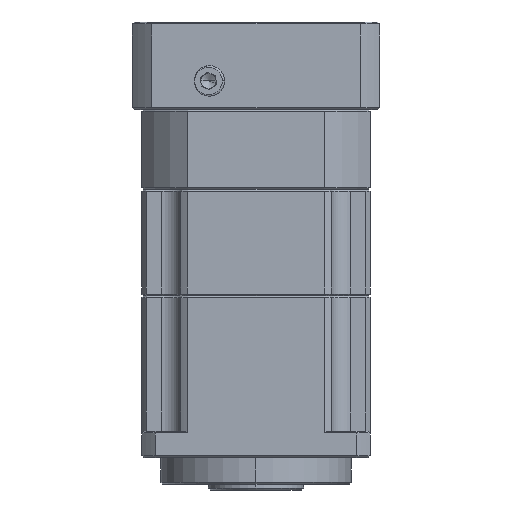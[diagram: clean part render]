
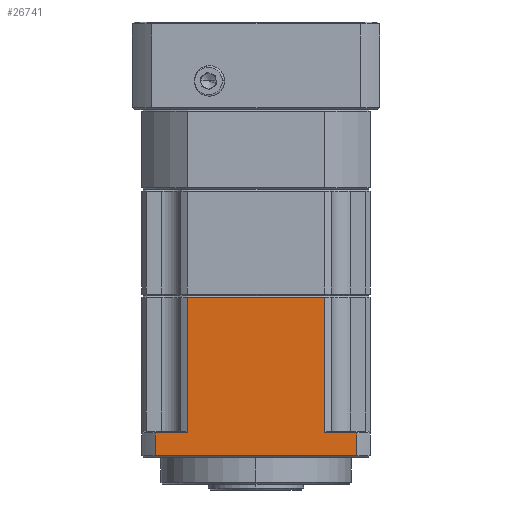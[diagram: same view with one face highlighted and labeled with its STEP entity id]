
A CAD part, left-side view. The second image highlights one B-rep face of the part: STEP entity #26741.
In plain terms, the highlighted planar face has unit normal (-1, 0, 0).
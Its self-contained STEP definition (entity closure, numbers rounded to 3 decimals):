
#1855 = CARTESIAN_POINT ( 'NONE',  ( -66.602, 16.985, -79.403 ) ) ;
#2417 = VECTOR ( 'NONE', #30995, 1000. ) ;
#5266 = LINE ( 'NONE', #26509, #88067 ) ;
#7591 = DIRECTION ( 'NONE',  ( 0., 0., 1. ) ) ;
#11541 = VERTEX_POINT ( 'NONE', #41208 ) ;
#14000 = CARTESIAN_POINT ( 'NONE',  ( -66.602, 5.012, -85.403 ) ) ;
#14736 = CARTESIAN_POINT ( 'NONE',  ( -66.602, 8.555, -48.903 ) ) ;
#17089 = EDGE_LOOP ( 'NONE', ( #68026, #108296, #32709, #67464, #54991, #54640, #37269, #41787 ) ) ;
#20062 = VERTEX_POINT ( 'NONE', #108586 ) ;
#24173 = DIRECTION ( 'NONE',  ( 0., 0., 1. ) ) ;
#26018 = EDGE_CURVE ( 'NONE', #91477, #20062, #57061, .T. ) ;
#26039 = EDGE_CURVE ( 'NONE', #108397, #91477, #74434, .T. ) ;
#26509 = CARTESIAN_POINT ( 'NONE',  ( -66.602, 5.012, -79.403 ) ) ;
#26741 = ADVANCED_FACE ( 'NONE', ( #103669 ), #61605, .F. ) ;
#30995 = DIRECTION ( 'NONE',  ( 0., -1., 0. ) ) ;
#32709 = ORIENTED_EDGE ( 'NONE', *, *, #41196, .F. ) ;
#34577 = CARTESIAN_POINT ( 'NONE',  ( -66.602, 16.985, -43.903 ) ) ;
#36597 = CARTESIAN_POINT ( 'NONE',  ( -66.602, 5.012, -48.903 ) ) ;
#36876 = VECTOR ( 'NONE', #62822, 1000. ) ;
#36974 = DIRECTION ( 'NONE',  ( 1., 0., 0. ) ) ;
#37269 = ORIENTED_EDGE ( 'NONE', *, *, #101658, .F. ) ;
#39751 = VECTOR ( 'NONE', #41546, 1000. ) ;
#40443 = DIRECTION ( 'NONE',  ( 0., -1., 0. ) ) ;
#41196 = EDGE_CURVE ( 'NONE', #74205, #11541, #5266, .T. ) ;
#41208 = CARTESIAN_POINT ( 'NONE',  ( -66.602, 53.04, -79.403 ) ) ;
#41528 = CARTESIAN_POINT ( 'NONE',  ( -66.602, 53.04, -48.903 ) ) ;
#41546 = DIRECTION ( 'NONE',  ( 0., 0., -1. ) ) ;
#41787 = ORIENTED_EDGE ( 'NONE', *, *, #55386, .F. ) ;
#44484 = VERTEX_POINT ( 'NONE', #34577 ) ;
#46360 = VECTOR ( 'NONE', #75535, 1000. ) ;
#46804 = CARTESIAN_POINT ( 'NONE',  ( -66.602, 8.555, -85.403 ) ) ;
#47845 = LINE ( 'NONE', #48471, #2417 ) ;
#48471 = CARTESIAN_POINT ( 'NONE',  ( -66.602, 5.012, -79.403 ) ) ;
#50150 = CARTESIAN_POINT ( 'NONE',  ( -66.602, 35.012, -43.903 ) ) ;
#54232 = CARTESIAN_POINT ( 'NONE',  ( -66.602, 61.47, -79.403 ) ) ;
#54640 = ORIENTED_EDGE ( 'NONE', *, *, #26039, .F. ) ;
#54991 = ORIENTED_EDGE ( 'NONE', *, *, #26018, .F. ) ;
#55386 = EDGE_CURVE ( 'NONE', #44484, #65892, #107486, .T. ) ;
#57061 = LINE ( 'NONE', #14000, #46360 ) ;
#61605 = PLANE ( 'NONE',  #100628 ) ;
#62822 = DIRECTION ( 'NONE',  ( 0., 0., -1. ) ) ;
#63452 = CARTESIAN_POINT ( 'NONE',  ( -66.602, 53.04, -43.903 ) ) ;
#64646 = VECTOR ( 'NONE', #24173, 1000. ) ;
#65892 = VERTEX_POINT ( 'NONE', #1855 ) ;
#66826 = VECTOR ( 'NONE', #40443, 1000. ) ;
#67464 = ORIENTED_EDGE ( 'NONE', *, *, #70102, .F. ) ;
#68026 = ORIENTED_EDGE ( 'NONE', *, *, #83346, .F. ) ;
#70102 = EDGE_CURVE ( 'NONE', #20062, #74205, #73980, .T. ) ;
#73980 = LINE ( 'NONE', #92476, #64646 ) ;
#74205 = VERTEX_POINT ( 'NONE', #54232 ) ;
#74434 = LINE ( 'NONE', #14736, #39751 ) ;
#75535 = DIRECTION ( 'NONE',  ( 0., 1., 0. ) ) ;
#78053 = VECTOR ( 'NONE', #7591, 1000. ) ;
#83346 = EDGE_CURVE ( 'NONE', #88329, #44484, #101529, .T. ) ;
#86215 = DIRECTION ( 'NONE',  ( 0., -1., 0. ) ) ;
#88067 = VECTOR ( 'NONE', #86215, 1000. ) ;
#88329 = VERTEX_POINT ( 'NONE', #63452 ) ;
#91477 = VERTEX_POINT ( 'NONE', #46804 ) ;
#92476 = CARTESIAN_POINT ( 'NONE',  ( -66.602, 61.47, -48.903 ) ) ;
#94210 = LINE ( 'NONE', #41528, #78053 ) ;
#96305 = CARTESIAN_POINT ( 'NONE',  ( -66.602, 8.555, -79.403 ) ) ;
#96791 = CARTESIAN_POINT ( 'NONE',  ( -66.602, 16.985, -48.903 ) ) ;
#100628 = AXIS2_PLACEMENT_3D ( 'NONE', #36597, #36974, #103757 ) ;
#101529 = LINE ( 'NONE', #50150, #66826 ) ;
#101658 = EDGE_CURVE ( 'NONE', #65892, #108397, #47845, .T. ) ;
#103669 = FACE_OUTER_BOUND ( 'NONE', #17089, .T. ) ;
#103757 = DIRECTION ( 'NONE',  ( 0., 0., -1. ) ) ;
#107486 = LINE ( 'NONE', #96791, #36876 ) ;
#108296 = ORIENTED_EDGE ( 'NONE', *, *, #109755, .F. ) ;
#108397 = VERTEX_POINT ( 'NONE', #96305 ) ;
#108586 = CARTESIAN_POINT ( 'NONE',  ( -66.602, 61.47, -85.403 ) ) ;
#109755 = EDGE_CURVE ( 'NONE', #11541, #88329, #94210, .T. ) ;
